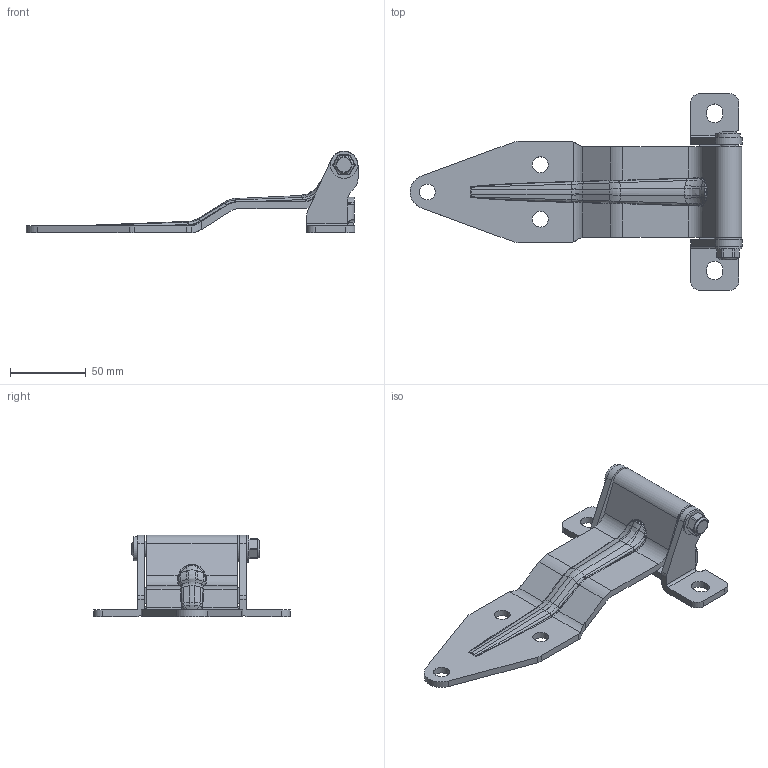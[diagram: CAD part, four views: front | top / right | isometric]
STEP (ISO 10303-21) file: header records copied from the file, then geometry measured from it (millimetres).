
FILE_DESCRIPTION(/* description */ (''),/* implementation_level */ '2;1');
FILE_NAME(/* name */ '\\NAS\db20\HT402\DR_HT402.stp',/* time_stamp */ '2017-08-30T08:54:23+09:00',/* author */ ('user'),/* organization */ (''),/* preprocessor_version */ 'ST-DEVELOPER v15.6',/* originating_system */ 'Autodesk Inventor 2015',/* authorisation */ '');
FILE_SCHEMA (('AUTOMOTIVE_DESIGN { 1 0 10303 214 3 1 1 }'));
Length unit declared in the file: millimetre
Products named in the file (3): DR_HT402; DR_HT402-P
Bounding box: 219.75 x 130 x 54 mm (x, y, z)
Volume: 105976.3 mm3; surface area: 52455 mm2
Topology: 4 solids, 4 shells, 306 faces, 774 edges, 481 vertices
Faces by surface type: plane 112, cylinder 106, bspline 68, cone 13, torus 6, sphere 1
Full cylindrical faces by diameter (mm): 10 x6, 10.5 x3, 16 x1, 18 x2
Entity records: 10553 total; most frequent: CARTESIAN_POINT 3336, ORIENTED_EDGE 1506, DIRECTION 1456, EDGE_CURVE 753, AXIS2_PLACEMENT_3D 557, VERTEX_POINT 477, LINE 342, VECTOR 342
